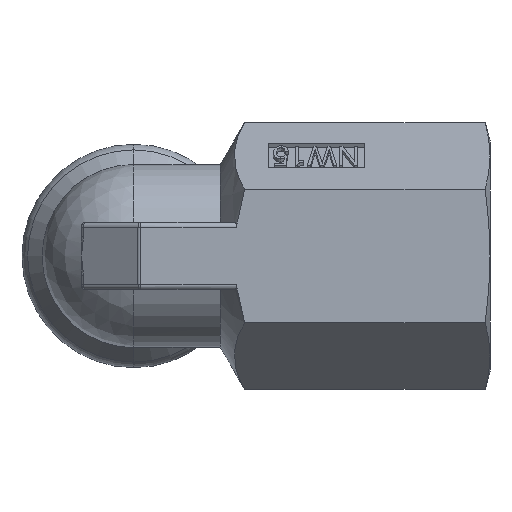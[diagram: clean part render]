
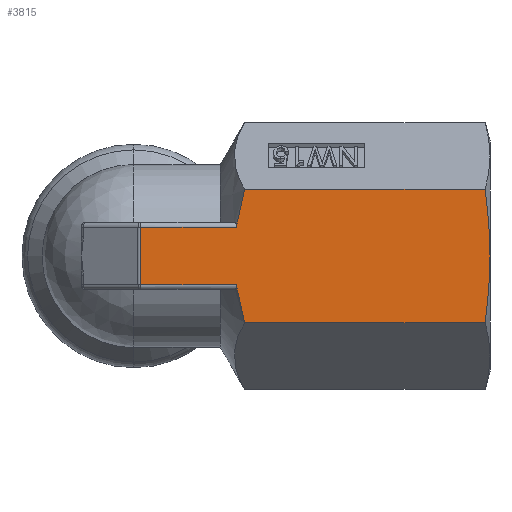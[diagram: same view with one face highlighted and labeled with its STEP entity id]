
A CAD part, left-side view. The second image highlights one B-rep face of the part: STEP entity #3815.
In plain terms, the highlighted planar face has unit normal (-1, 0, 0).
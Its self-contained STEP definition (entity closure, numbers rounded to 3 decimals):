
#117 = DIRECTION ( 'NONE',  ( 0., -1., 0. ) ) ;
#172 = DIRECTION ( 'NONE',  ( 0., 0., -1. ) ) ;
#313 = AXIS2_PLACEMENT_3D ( 'NONE', #684, #4607, #172 ) ;
#356 = VECTOR ( 'NONE', #3440, 1000. ) ;
#530 = EDGE_CURVE ( 'NONE', #3171, #586, #3028, .T. ) ;
#552 = CARTESIAN_POINT ( 'NONE',  ( -12., -10.657, -3. ) ) ;
#563 = EDGE_CURVE ( 'NONE', #586, #5098, #2858, .T. ) ;
#586 = VERTEX_POINT ( 'NONE', #5031 ) ;
#652 = CARTESIAN_POINT ( 'NONE',  ( -12., -37., 0. ) ) ;
#684 = CARTESIAN_POINT ( 'NONE',  ( -12., -37., 6.928 ) ) ;
#751 = CARTESIAN_POINT ( 'NONE',  ( -12., -36.955, -2.308 ) ) ;
#768 = B_SPLINE_CURVE_WITH_KNOTS ( 'NONE', 3,
 ( #2822, #2389, #4552, #1498, #1057, #5047 ),
 .UNSPECIFIED., .F., .F.,
 ( 4, 2, 4 ),
 ( 0.013, 0.015, 0.017 ),
 .UNSPECIFIED. ) ;
#889 = ORIENTED_EDGE ( 'NONE', *, *, #5296, .F. ) ;
#935 = CARTESIAN_POINT ( 'NONE',  ( -12., -11.515, -6.928 ) ) ;
#959 = VECTOR ( 'NONE', #117, 1000. ) ;
#969 = EDGE_CURVE ( 'NONE', #2545, #5521, #768, .T. ) ;
#993 = VERTEX_POINT ( 'NONE', #4128 ) ;
#1057 = CARTESIAN_POINT ( 'NONE',  ( -12., -10.749, -3.661 ) ) ;
#1087 = CARTESIAN_POINT ( 'NONE',  ( -12., -37., -1.153 ) ) ;
#1123 = ORIENTED_EDGE ( 'NONE', *, *, #4463, .T. ) ;
#1456 = EDGE_CURVE ( 'NONE', #4491, #3390, #4698, .T. ) ;
#1492 = CARTESIAN_POINT ( 'NONE',  ( -12., -36.503, -6.928 ) ) ;
#1498 = CARTESIAN_POINT ( 'NONE',  ( -12., -10.87, -4.32 ) ) ;
#1525 = CARTESIAN_POINT ( 'NONE',  ( -12., -11.515, 6.928 ) ) ;
#1566 = CARTESIAN_POINT ( 'NONE',  ( -12., -0.733, -3.5 ) ) ;
#1587 = EDGE_CURVE ( 'NONE', #993, #4491, #5501, .T. ) ;
#1887 = CARTESIAN_POINT ( 'NONE',  ( -12., -36.657, 5.775 ) ) ;
#2061 = CARTESIAN_POINT ( 'NONE',  ( -12., -36.503, -6.928 ) ) ;
#2119 = CARTESIAN_POINT ( 'NONE',  ( -12., -0.733, -3. ) ) ;
#2239 = VECTOR ( 'NONE', #5247, 1000. ) ;
#2288 = CARTESIAN_POINT ( 'NONE',  ( -12., -36.783, 4.622 ) ) ;
#2326 = CARTESIAN_POINT ( 'NONE',  ( -12., -37., 0. ) ) ;
#2389 = CARTESIAN_POINT ( 'NONE',  ( -12., -11.329, -6.285 ) ) ;
#2545 = VERTEX_POINT ( 'NONE', #935 ) ;
#2575 = B_SPLINE_CURVE_WITH_KNOTS ( 'NONE', 3,
 ( #4138, #5014, #2832, #1525 ),
 .UNSPECIFIED., .F., .F.,
 ( 4, 4 ),
 ( 0.023, 0.027 ),
 .UNSPECIFIED. ) ;
#2690 = VECTOR ( 'NONE', #5074, 1000. ) ;
#2721 = CARTESIAN_POINT ( 'NONE',  ( -12., -37., -3. ) ) ;
#2734 = ORIENTED_EDGE ( 'NONE', *, *, #4732, .F. ) ;
#2785 = LINE ( 'NONE', #2721, #959 ) ;
#2821 = PLANE ( 'NONE',  #313 ) ;
#2822 = CARTESIAN_POINT ( 'NONE',  ( -12., -11.515, -6.928 ) ) ;
#2832 = CARTESIAN_POINT ( 'NONE',  ( -12., -11.144, 5.642 ) ) ;
#2858 = B_SPLINE_CURVE_WITH_KNOTS ( 'NONE', 3,
 ( #652, #1087, #751, #3675, #2936, #2061 ),
 .UNSPECIFIED., .F., .F.,
 ( 4, 2, 4 ),
 ( 0.037, 0.041, 0.044 ),
 .UNSPECIFIED. ) ;
#2936 = CARTESIAN_POINT ( 'NONE',  ( -12., -36.657, -5.777 ) ) ;
#2974 = ORIENTED_EDGE ( 'NONE', *, *, #1456, .T. ) ;
#2985 = CARTESIAN_POINT ( 'NONE',  ( -12., -36.503, 6.928 ) ) ;
#3028 = B_SPLINE_CURVE_WITH_KNOTS ( 'NONE', 3,
 ( #4473, #1887, #2288, #4957, #4067, #2326 ),
 .UNSPECIFIED., .F., .F.,
 ( 4, 2, 4 ),
 ( 0.03, 0.034, 0.037 ),
 .UNSPECIFIED. ) ;
#3133 = ORIENTED_EDGE ( 'NONE', *, *, #530, .F. ) ;
#3171 = VERTEX_POINT ( 'NONE', #2985 ) ;
#3294 = ORIENTED_EDGE ( 'NONE', *, *, #1587, .T. ) ;
#3390 = VERTEX_POINT ( 'NONE', #2119 ) ;
#3440 = DIRECTION ( 'NONE',  ( 0., 1., 0. ) ) ;
#3459 = ORIENTED_EDGE ( 'NONE', *, *, #969, .F. ) ;
#3466 = VERTEX_POINT ( 'NONE', #5261 ) ;
#3485 = LINE ( 'NONE', #5196, #356 ) ;
#3669 = VECTOR ( 'NONE', #5586, 1000. ) ;
#3675 = CARTESIAN_POINT ( 'NONE',  ( -12., -36.783, -4.618 ) ) ;
#3815 = ADVANCED_FACE ( 'NONE', ( #4739 ), #2821, .F. ) ;
#4067 = CARTESIAN_POINT ( 'NONE',  ( -12., -37., 1.157 ) ) ;
#4128 = CARTESIAN_POINT ( 'NONE',  ( -12., -10.657, 3. ) ) ;
#4138 = CARTESIAN_POINT ( 'NONE',  ( -12., -10.657, 3. ) ) ;
#4401 = CARTESIAN_POINT ( 'NONE',  ( -12., -0.733, 3. ) ) ;
#4463 = EDGE_CURVE ( 'NONE', #3171, #3466, #3485, .T. ) ;
#4473 = CARTESIAN_POINT ( 'NONE',  ( -12., -36.503, 6.928 ) ) ;
#4491 = VERTEX_POINT ( 'NONE', #4401 ) ;
#4493 = ORIENTED_EDGE ( 'NONE', *, *, #563, .F. ) ;
#4552 = CARTESIAN_POINT ( 'NONE',  ( -12., -11.161, -5.633 ) ) ;
#4607 = DIRECTION ( 'NONE',  ( 1., 0., 0. ) ) ;
#4698 = LINE ( 'NONE', #1566, #2690 ) ;
#4732 = EDGE_CURVE ( 'NONE', #993, #3466, #2575, .T. ) ;
#4739 = FACE_OUTER_BOUND ( 'NONE', #4951, .T. ) ;
#4789 = EDGE_CURVE ( 'NONE', #3390, #5521, #2785, .T. ) ;
#4951 = EDGE_LOOP ( 'NONE', ( #2734, #3294, #2974, #5431, #3459, #889, #4493, #3133, #1123 ) ) ;
#4957 = CARTESIAN_POINT ( 'NONE',  ( -12., -36.954, 2.313 ) ) ;
#5014 = CARTESIAN_POINT ( 'NONE',  ( -12., -10.844, 4.336 ) ) ;
#5031 = CARTESIAN_POINT ( 'NONE',  ( -12., -37., 0. ) ) ;
#5047 = CARTESIAN_POINT ( 'NONE',  ( -12., -10.657, -3. ) ) ;
#5074 = DIRECTION ( 'NONE',  ( 0., 0., -1. ) ) ;
#5098 = VERTEX_POINT ( 'NONE', #1492 ) ;
#5196 = CARTESIAN_POINT ( 'NONE',  ( -12., -37., 6.928 ) ) ;
#5247 = DIRECTION ( 'NONE',  ( 0., 1., 0. ) ) ;
#5261 = CARTESIAN_POINT ( 'NONE',  ( -12., -11.515, 6.928 ) ) ;
#5296 = EDGE_CURVE ( 'NONE', #5098, #2545, #5457, .T. ) ;
#5324 = CARTESIAN_POINT ( 'NONE',  ( -12., -37., -6.928 ) ) ;
#5431 = ORIENTED_EDGE ( 'NONE', *, *, #4789, .T. ) ;
#5457 = LINE ( 'NONE', #5324, #2239 ) ;
#5501 = LINE ( 'NONE', #5544, #3669 ) ;
#5521 = VERTEX_POINT ( 'NONE', #552 ) ;
#5544 = CARTESIAN_POINT ( 'NONE',  ( -12., -0.575, 3. ) ) ;
#5586 = DIRECTION ( 'NONE',  ( 0., 1., 0. ) ) ;
